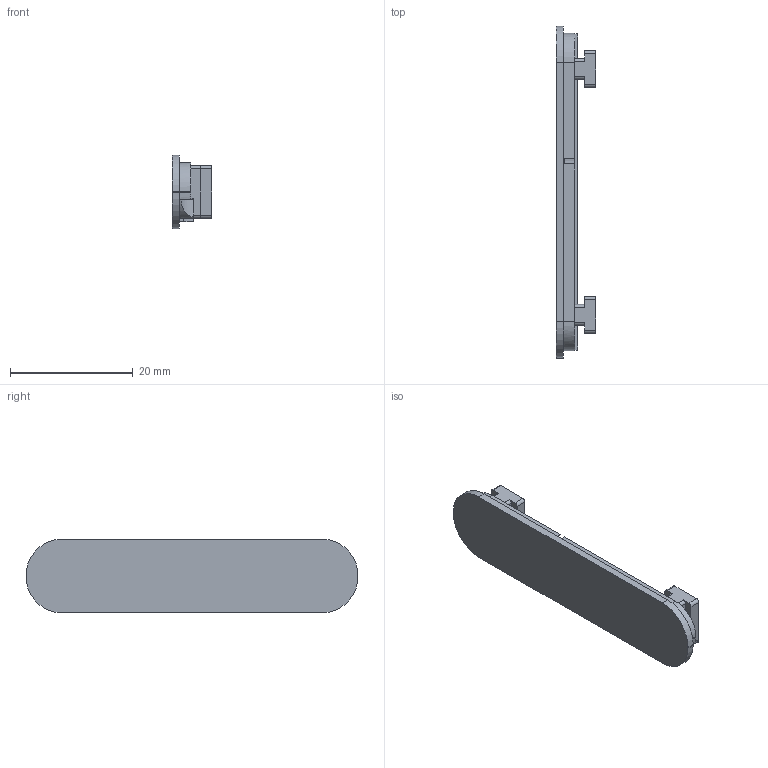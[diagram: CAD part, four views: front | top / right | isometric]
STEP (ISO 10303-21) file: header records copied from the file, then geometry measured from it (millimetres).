
FILE_DESCRIPTION(('Open CASCADE Model'),'2;1');
FILE_NAME('Open CASCADE Shape Model','2026-09-16T15:34:22',('Author'),( 'Open CASCADE'),'Open CASCADE STEP processor 7.7','Open CASCADE 7.7' ,'Unknown');
FILE_SCHEMA(('AUTOMOTIVE_DESIGN { 1 0 10303 214 1 1 1 1 }'));
Length unit declared in the file: millimetre
Products named in the file (1): SOLID
Bounding box: 6.5 x 54 x 12 mm (x, y, z)
Volume: 1847.8 mm3; surface area: 1931.9 mm2
Topology: 1 solids, 1 shells, 86 faces, 244 edges, 162 vertices
Faces by surface type: plane 53, cylinder 33
Entity records: 6229 total; most frequent: CARTESIAN_POINT 1363, DIRECTION 925, LINE 552, VECTOR 552, ORIENTED_EDGE 488, PCURVE 488, DEFINITIONAL_REPRESENTATION 488, EDGE_CURVE 244
